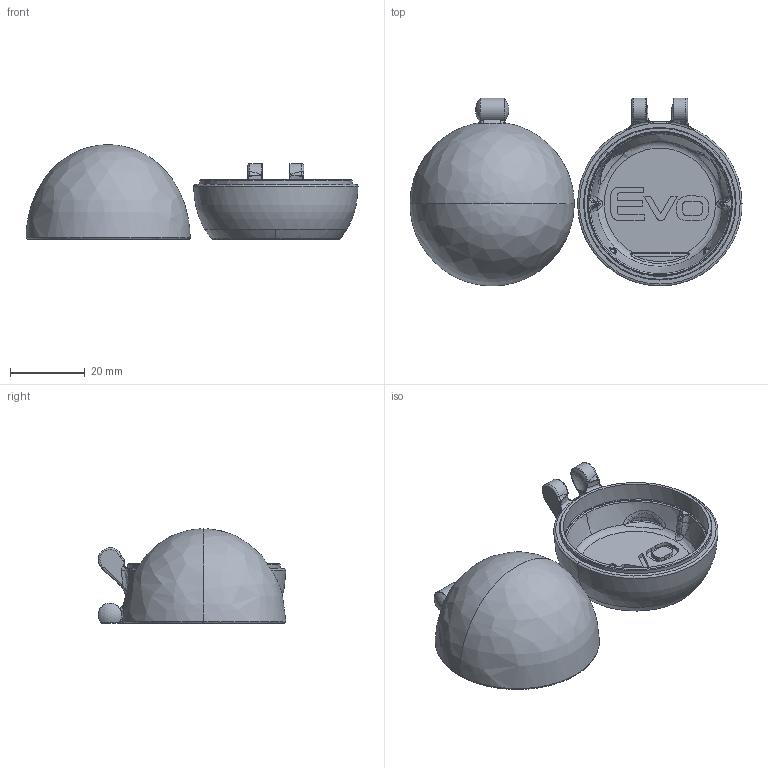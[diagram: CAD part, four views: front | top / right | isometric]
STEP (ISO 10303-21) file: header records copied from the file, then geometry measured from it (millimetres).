
FILE_DESCRIPTION(/* description */ (''),/* implementation_level */ '2;1');
FILE_NAME(/* name */ '/Users/jmac/Desktop/CAD Refresh/Evo Case/Evo Case.step',/* time_stamp */ '2022-09-21T15:45:06-06:00',/* author */ (''),/* organization */ (''),/* preprocessor_version */ 'ST-DEVELOPER v19',/* originating_system */ 'Autodesk Translation Framework v11.7.0.108',/* authorisation */ '');
FILE_SCHEMA (('AUTOMOTIVE_DESIGN { 1 0 10303 214 3 1 1 }'));
Length unit declared in the file: millimetre
Products named in the file (3): Evo Case_CAD Library; Evo Case Bottom; Evo Case Top
Assembly tree (2 placements, depth 2):
  Evo Case_CAD Library
    Evo Case Bottom
    Evo Case Top
Bounding box: 89.08 x 50.4 x 25.33 mm (x, y, z)
Volume: 13560.7 mm3; surface area: 12936.3 mm2
Topology: 2 solids, 2 shells, 296 faces, 737 edges, 432 vertices
Faces by surface type: bspline 177, plane 57, cylinder 34, torus 15, sphere 10, cone 3
Full cylindrical faces by diameter (mm): 40.943 x1, 41.143 x1
Entity records: 23243 total; most frequent: CARTESIAN_POINT 17486, ORIENTED_EDGE 1428, DIRECTION 787, EDGE_CURVE 714, VERTEX_POINT 432, B_SPLINE_CURVE_WITH_KNOTS 334, AXIS2_PLACEMENT_3D 317, EDGE_LOOP 306
